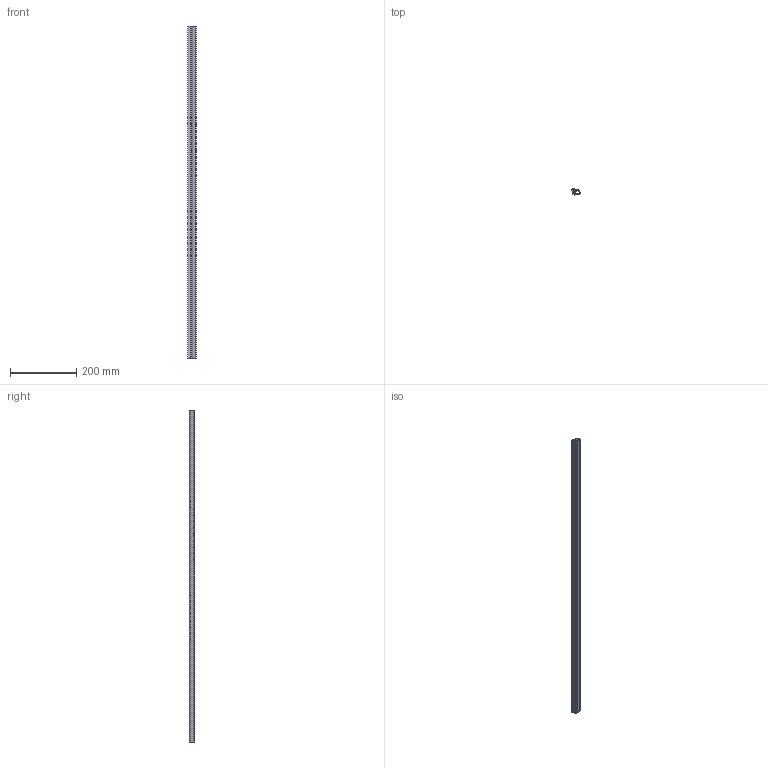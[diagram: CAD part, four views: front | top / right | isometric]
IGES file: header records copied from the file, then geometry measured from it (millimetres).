
Start section: SolidWorks IGES file using analytic representation for surfaces
Bounding box: 24.29 x 17.4 x 1000 mm (x, y, z)
Surface area: 161670.4 mm2 (no closed solid volume)
Topology: 0 solids, 0 shells, 65 faces, 682 edges, 682 vertices
Faces by surface type: bspline 34, revolution 31
